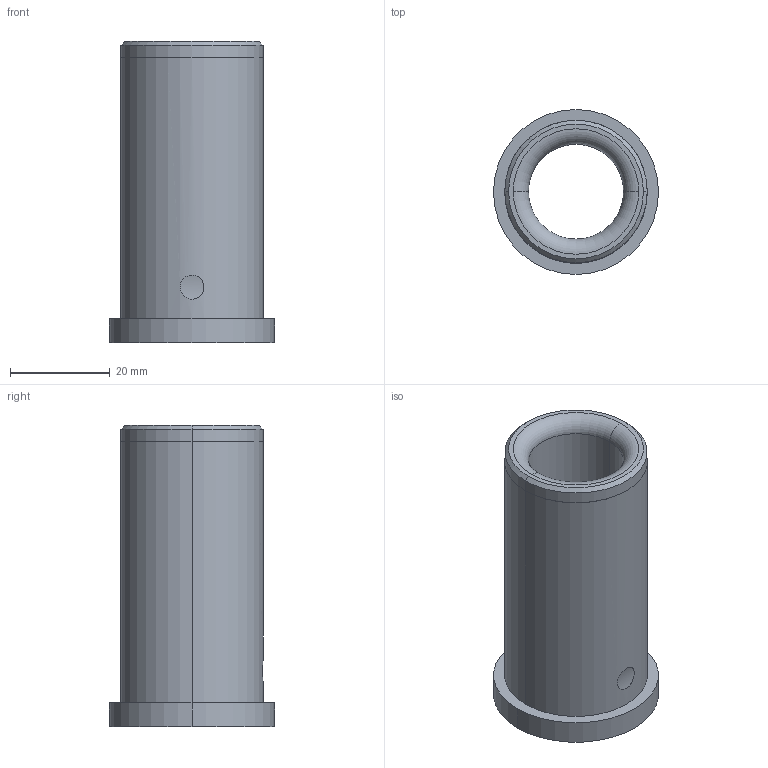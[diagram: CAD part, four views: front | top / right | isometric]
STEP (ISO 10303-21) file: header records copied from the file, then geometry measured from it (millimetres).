
FILE_DESCRIPTION (( 'STEP AP214' ), '1' );
FILE_NAME ('S750-19G.step', '2024-07-23T19:31:39', ( '' ), ( '' ), 'SwSTEP 2.0', 'SolidWorks 2017', '' );
FILE_SCHEMA (( 'AUTOMOTIVE_DESIGN' ));
Length unit declared in the file: inch
Products named in the file (1): S750-19G
Bounding box: 33.07 x 33.07 x 60.33 mm (x, y, z)
Volume: 22295.1 mm3; surface area: 10076.5 mm2
Topology: 1 solids, 1 shells, 21 faces, 42 edges, 26 vertices
Faces by surface type: cylinder 9, cone 4, plane 4, bspline 2, torus 2
Entity records: 825 total; most frequent: CARTESIAN_POINT 294, DIRECTION 102, ORIENTED_EDGE 84, AXIS2_PLACEMENT_3D 44, EDGE_CURVE 42, VERTEX_POINT 26, EDGE_LOOP 26, CIRCLE 24
